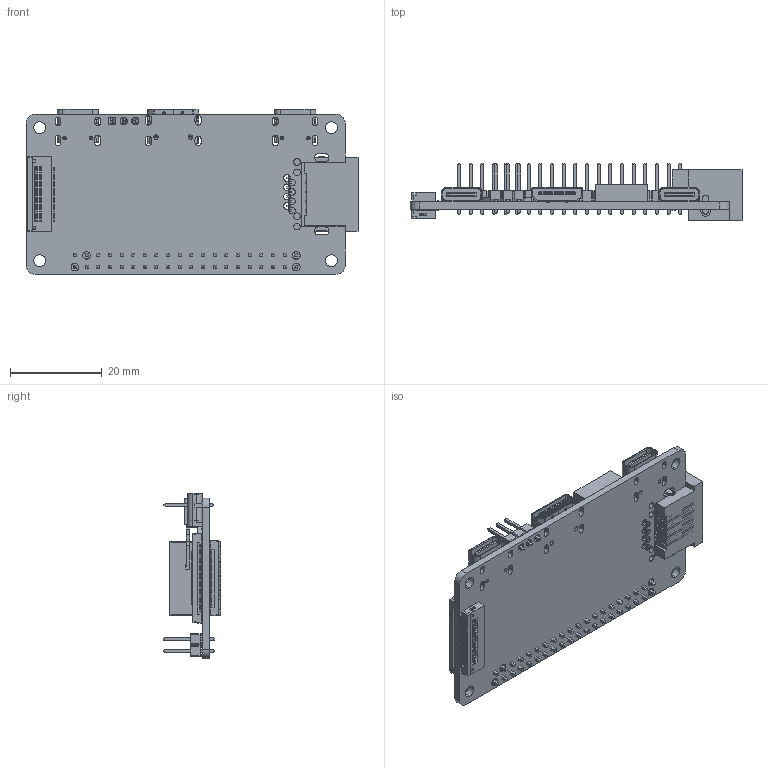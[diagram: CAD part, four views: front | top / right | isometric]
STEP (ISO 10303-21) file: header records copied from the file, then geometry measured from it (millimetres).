
FILE_DESCRIPTION (( 'STEP AP214' ), '1' );
FILE_NAME ('LubanCat Zero N PCB.STEP', '2023-03-24T08:03:57', ( '' ), ( '' ), 'SwSTEP 2.0', 'SolidWorks 2021', '' );
FILE_SCHEMA (( 'AUTOMOTIVE_DESIGN' ));
Length unit declared in the file: millimetre
Products named in the file (15): TSW-109-07-G-S 3pin; RK3566郋え 詢僅0.9 錨璃; x05a20l24t; User Library-HEADER 20X2; LubanCat Zero N PCB; RJ45厙諳 蚾饜极; TF 傻极湍潰聆PIN 3.75H 錨璃; 傻竘褐 1.1 錨璃; 000a71-05h4-111n1; x05a20l30t; 酗竘褐 錨璃; LubanCat Zero N PCB 錨璃; SD縐; TYPE-C 譫釱 16P 泂え 錨璃; 沉板RJ45网口主体 零件
Assembly tree (15 placements, depth 3):
  LubanCat Zero N PCB
    LubanCat Zero N PCB 錨璃
    RJ45厙諳 蚾饜极
      沉板RJ45网口主体 零件
      傻竘褐 1.1 錨璃
      酗竘褐 錨璃
    TYPE-C 譫釱 16P 泂え 錨璃  x2
    000a71-05h4-111n1
    TF 傻极湍潰聆PIN 3.75H 錨璃
    SD縐
    TSW-109-07-G-S 3pin
    User Library-HEADER 20X2
    x05a20l24t
    x05a20l30t
    RK3566郋え 詢僅0.9 錨璃
Bounding box: 72.4 x 12.6 x 36 mm (x, y, z)
Volume: 6882.4 mm3; surface area: 13009.8 mm2
Topology: 23 solids, 23 shells, 4080 faces, 11391 edges, 7352 vertices
Faces by surface type: plane 3426, cylinder 549, bspline 85, cone 16, torus 4
Entity records: 144899 total; most frequent: CARTESIAN_POINT 27937, ORIENTED_EDGE 22008, DIRECTION 19622, EDGE_CURVE 11004, LINE 9700, VECTOR 9700, VERTEX_POINT 7098, AXIS2_PLACEMENT_3D 4961
